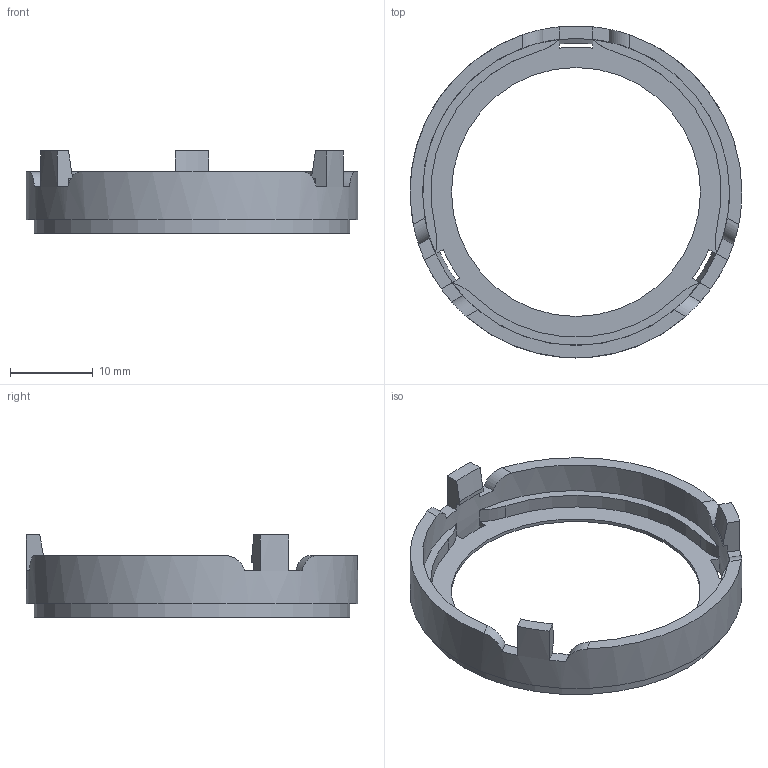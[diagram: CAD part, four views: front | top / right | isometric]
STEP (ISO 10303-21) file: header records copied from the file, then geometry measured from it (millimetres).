
FILE_DESCRIPTION(/* description */ (''),/* implementation_level */ '2;1');
FILE_NAME(/* name */ 'Generic22_.step',/* time_stamp */ '2024-04-08T16:11:38+02:00',/* author */ (''),/* organization */ (''),/* preprocessor_version */ 'ST-DEVELOPER v20',/* originating_system */ 'Autodesk Translation Framework v12.20.1.177',/* authorisation */ '');
FILE_SCHEMA (('AUTOMOTIVE_DESIGN { 1 0 10303 214 3 1 1 }'));
Length unit declared in the file: millimetre
Products named in the file (1): UNI adapter 22mm
Bounding box: 40 x 40 x 9.9 mm (x, y, z)
Volume: 1736 mm3; surface area: 2809.7 mm2
Topology: 1 solids, 1 shells, 62 faces, 185 edges, 120 vertices
Faces by surface type: plane 33, cylinder 25, cone 4
Full cylindrical faces by diameter (mm): 30 x1, 37 x1, 38 x1, 40 x1
Entity records: 2232 total; most frequent: CARTESIAN_POINT 500, ORIENTED_EDGE 370, DIRECTION 362, EDGE_CURVE 185, AXIS2_PLACEMENT_3D 138, VERTEX_POINT 120, LINE 86, VECTOR 86
